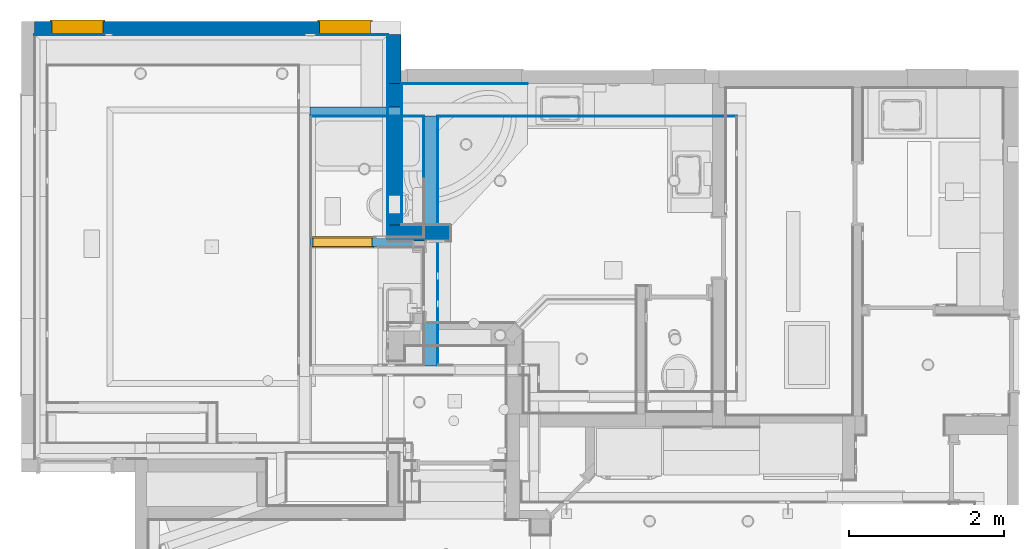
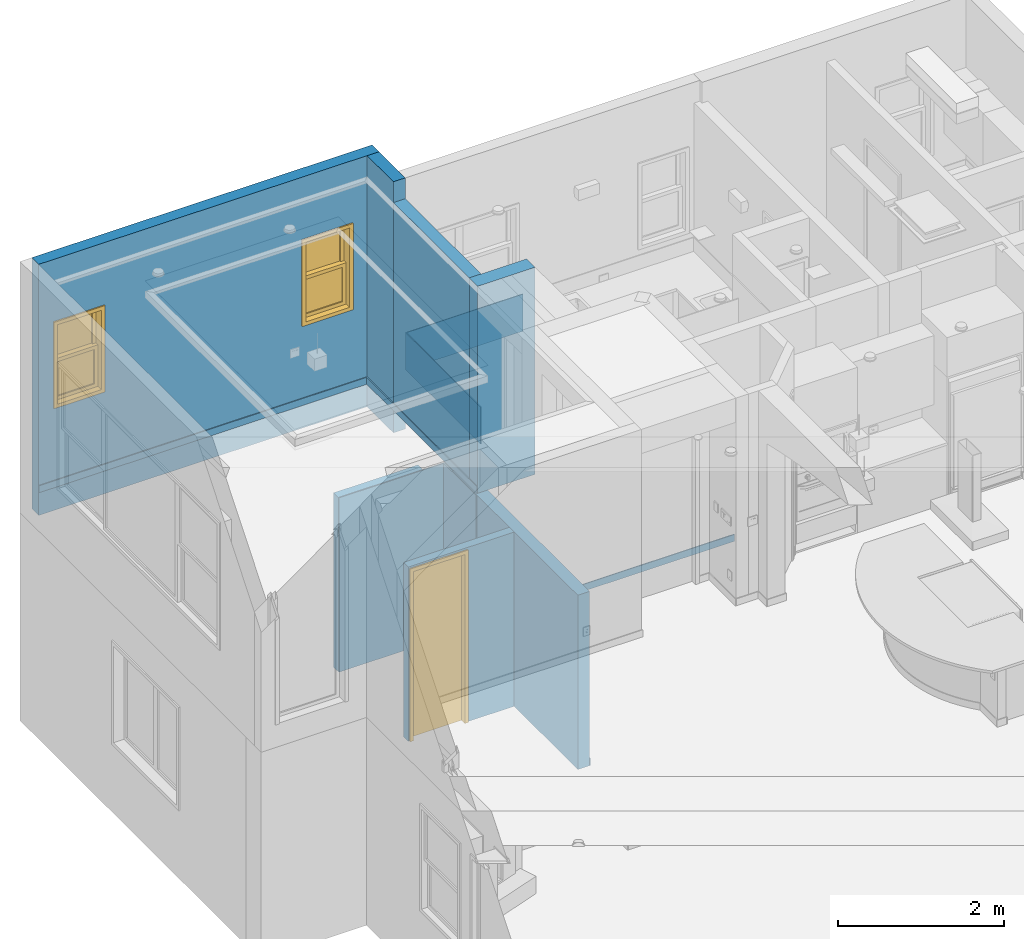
# One storey, part 10 of 60: 15 walls, 2 windows, 1 door, 3 openings.
"""IFC2X3 building model written with IfcOpenShell, lengths in feet."""

from ifc_helpers import new_model, entity, si_unit, converted_unit, direction, frame, frame_2d, origin, origin_2d_with_axis, place, context, subcontext, project, spatial, polyline, rectangle, outline, extrude, clip, bounded_halfspace, source, transform, mapped, material, material_list, layer, layer_set, layer_usage, type_object, type_shapes, element, fill, save


model = new_model("IFC2X3")

# Units and contexts
model_context = context("Model", 3, precision=0.0001, world=origin(), true_north=direction((6.123031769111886e-17, 1.0)))
plan_context = context("Plan", 3, precision=0.0001, world=origin(), true_north=direction((6.123031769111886e-17, 1.0)))
body_context = subcontext(model_context, "Body", "Model", "MODEL_VIEW")
ifc_project = project(units=[converted_unit("LENGTHUNIT", "FOOT", entity("IfcLengthMeasure", 0.3048), si_unit("LENGTHUNIT", "METRE"), dimensions=[1, 0, 0, 0, 0, 0, 0]), converted_unit("AREAUNIT", "SQUARE FOOT", entity("IfcAreaMeasure", 0.09290304), si_unit("AREAUNIT", "SQUARE_METRE"), dimensions=[2, 0, 0, 0, 0, 0, 0]), converted_unit("PLANEANGLEUNIT", "DEGREE", entity("IfcPlaneAngleMeasure", 0.017453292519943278), si_unit("PLANEANGLEUNIT", "RADIAN"), dimensions=[0, 0, 0, 0, 0, 0, 0])], contexts=[model_context, plan_context])

# Site, building, storey
site_placement = place(None, origin())
site = spatial("IfcSite", under=ifc_project, at=site_placement, Name="Default", CompositionType="ELEMENT")
building_placement = place(site_placement, origin())
building = spatial("IfcBuilding", under=site, at=building_placement, CompositionType="ELEMENT")
storey_placement = place(building_placement, origin())
storey = spatial("IfcBuildingStorey", under=building, at=storey_placement, Name="First floor", CompositionType="ELEMENT", Elevation=0.0)

# Wall, openings, windows
ifc_material_1 = material(Name="Default New Material")
ifc_layer_1 = layer(ifc_material_1, 0.5416666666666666)
ifc_layer_set_1 = layer_set([ifc_layer_1], Name="Basic Wall:Wall_6.5\"")
ifc_layer_usage_1 = layer_usage(ifc_layer_set_1, "AXIS2", "NEGATIVE", 0.2708333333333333)
wall_type_1 = type_object("IfcWallType", Name="Basic Wall:Wall_6.5\"", PredefinedType="STANDARD", material=ifc_layer_set_1)
wall_1_placement = place(storey_placement, frame((-21.312499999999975, 49.85416666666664, 9.541666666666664)))
wall_1 = element("IfcWallStandardCase", 1, at=wall_1_placement, inside=storey, type_object=wall_type_1, material=ifc_layer_usage_1, Name="Basic Wall:Wall_6.5\"", ObjectType="Basic Wall:Wall_6.5\"", context=body_context, shape_type="SweptSolid", body=[
    extrude(rectangle(XDim=15.541666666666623, YDim=0.5416666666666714, at=frame_2d((7.770833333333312, 8.881784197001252e-16), x_axis=(-1.0, 0.0))), origin(), (0.0, 0.0, 1.0), 12.125),
])
opening_1_placement = place(wall_1_placement, frame((0.749999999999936, -0.27083333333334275, 5.041666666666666)))
opening_1 = element("IfcOpeningElement", 2, at=opening_1_placement, cuts=wall_1, Name="C_Window Guilotine:2'-0\" X 3'-10\":1", ObjectType="Opening", context=body_context, shape_type="SweptSolid", body=[
    extrude(rectangle(XDim=2.166666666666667, YDim=4.000000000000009, at=frame_2d((2.0000000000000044, 1.083333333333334), x_axis=(0.0, -1.0))), frame((0.0, 0.0, 0.0), z_axis=(0.0, 1.0, 0.0), x_axis=(0.0, 0.0, 1.0)), (0.0, 0.0, 1.0), 0.5416666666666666),
])
opening_2_placement = place(wall_1_placement, frame((12.083333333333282, -0.2708333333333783, 5.041666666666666)))
opening_2 = element("IfcOpeningElement", 3, at=opening_2_placement, cuts=wall_1, Name="C_Window Guilotine:2'-0\" X 3'-10\":1", ObjectType="Opening", context=body_context, shape_type="SweptSolid", body=[
    extrude(rectangle(XDim=2.166666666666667, YDim=4.000000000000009, at=frame_2d((2.0000000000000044, 1.0833333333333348), x_axis=(0.0, -1.0))), frame((0.0, 0.0, 0.0), z_axis=(0.0, 1.0, 0.0), x_axis=(0.0, 0.0, 1.0)), (0.0, 0.0, 1.0), 0.5416666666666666),
])
ifc_material_2 = material(Name="Glass")
ifc_material_list = material_list([ifc_material_1, ifc_material_2])
window_style = type_object("IfcWindowStyle", Name="C_Window Guilotine:2'-0\" X 3'-10\"", ConstructionType="NOTDEFINED", OperationType="NOTDEFINED", ParameterTakesPrecedence=False, Sizeable=False, material=ifc_material_list)
shared_shape_1 = source(origin(), body_context, "Body", "SweptSolid", [
    extrude(outline(polyline([(-1.0, -1.0), (1.0, -1.0), (1.0, 1.0), (-1.0, 1.0), (-1.0, -1.0)]), holes=[polyline([(-0.8333333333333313, -0.8333333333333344), (-0.8333333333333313, 0.8333333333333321), (0.8333333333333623, 0.8333333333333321), (0.8333333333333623, -0.8333333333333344), (-0.8333333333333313, -0.8333333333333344)])]), frame((1.0833333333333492, 0.5416666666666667, 2.9166666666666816), z_axis=(0.0, -1.0, 0.0), x_axis=(0.0, 0.0, -1.0)), (0.0, 0.0, 1.0), 0.1666666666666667),
    extrude(rectangle(XDim=0.04166666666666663, YDim=1.6666666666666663, at=origin_2d_with_axis()), frame((1.0833333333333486, 0.2916666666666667, 1.3402777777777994), z_axis=(0.0, 0.0, 1.0), x_axis=(0.0, 1.0, 0.0)), (0.0, 0.0, 1.0), 0.04166666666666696),
    extrude(rectangle(XDim=0.04166666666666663, YDim=1.6666666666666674, at=origin_2d_with_axis()), frame((1.0833333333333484, 0.2916666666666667, 0.7847222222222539), z_axis=(0.0, 0.0, 1.0), x_axis=(0.0, 1.0, 0.0)), (0.0, 0.0, 1.0), 0.04166666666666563),
    extrude(rectangle(XDim=0.04166666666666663, YDim=1.6666666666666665, at=origin_2d_with_axis()), frame((1.0833333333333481, 0.4583333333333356, 3.1736111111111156), z_axis=(0.0, 0.0, 1.0), x_axis=(0.0, 1.0, 0.0)), (0.0, 0.0, 1.0), 0.04166666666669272),
    extrude(rectangle(XDim=0.04166666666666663, YDim=1.6666666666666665, at=origin_2d_with_axis()), frame((1.0833333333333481, 0.4583333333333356, 2.618055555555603), z_axis=(0.0, 0.0, 1.0), x_axis=(0.0, 1.0, 0.0)), (0.0, 0.0, 1.0), 0.04166666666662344),
    extrude(rectangle(XDim=0.04166666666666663, YDim=0.04166666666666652, at=origin_2d_with_axis()), frame((0.8055555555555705, 0.4583333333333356, 2.083333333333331), z_axis=(0.0, 0.0, 1.0), x_axis=(0.0, 1.0, 0.0)), (0.0, 0.0, 1.0), 1.666666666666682),
    extrude(rectangle(XDim=0.04166666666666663, YDim=0.04166666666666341, at=origin_2d_with_axis()), frame((1.3611111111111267, 0.4583333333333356, 2.0833333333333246), z_axis=(0.0, 0.0, 1.0), x_axis=(0.0, 1.0, 0.0)), (0.0, 0.0, 1.0), 1.66666666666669),
    extrude(rectangle(XDim=0.04166666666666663, YDim=1.6666666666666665, at=origin_2d_with_axis()), frame((1.0833333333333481, 0.4583333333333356, 2.0833333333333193), z_axis=(0.0, 0.0, 1.0), x_axis=(0.0, 1.0, 0.0)), (0.0, 0.0, 1.0), 1.6666666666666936),
    extrude(rectangle(XDim=0.04166666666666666, YDim=0.04166666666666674, at=origin_2d_with_axis()), frame((0.8055555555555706, 0.29166666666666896, 0.25000000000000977), z_axis=(0.0, 0.0, 1.0), x_axis=(0.0, 1.0, 0.0)), (0.0, 0.0, 1.0), 1.6666666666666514),
    extrude(rectangle(XDim=0.04166666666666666, YDim=0.04166666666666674, at=origin_2d_with_axis()), frame((1.3611111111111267, 0.29166666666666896, 0.25000000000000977), z_axis=(0.0, 0.0, 1.0), x_axis=(0.0, 1.0, 0.0)), (0.0, 0.0, 1.0), 1.6666666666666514),
    extrude(rectangle(XDim=0.04166666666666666, YDim=1.6666666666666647, at=origin_2d_with_axis()), frame((1.0833333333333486, 0.2916666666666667, 0.25000000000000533), z_axis=(0.0, 0.0, 1.0), x_axis=(0.0, 1.0, 0.0)), (0.0, 0.0, 1.0), 1.666666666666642),
    extrude(outline(polyline([(-1.0, -1.0), (1.0, -1.0), (1.0, 1.0), (-1.0, 1.0), (-1.0, -1.0)]), holes=[polyline([(0.833333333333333, -0.8333333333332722), (-0.8333333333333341, -0.8333333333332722), (-0.8333333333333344, 0.8333333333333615), (0.833333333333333, 0.8333333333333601), (0.833333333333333, -0.8333333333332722)])]), frame((1.0833333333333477, 0.375, 1.0833333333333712), z_axis=(0.0, -1.0, 0.0), x_axis=(-1.0, 0.0, 0.0)), (0.0, 0.0, 1.0), 0.16666666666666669),
    extrude(outline(polyline([(-1.166666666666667, -2.083333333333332), (1.166666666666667, -2.083333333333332), (1.1666666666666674, 2.083333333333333), (-1.1666666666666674, 2.083333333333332), (-1.166666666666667, -2.083333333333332)]), holes=[polyline([(-1.0, -1.916666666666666), (-1.0, 1.9166666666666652), (1.0, 1.9166666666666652), (1.0, -1.916666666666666), (-1.0, -1.916666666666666)])]), frame((1.0833333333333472, 0.0, 2.0), z_axis=(0.0, -1.0, 0.0), x_axis=(-1.0, 0.0, 0.0)), (0.0, 0.0, 1.0), 0.0625),
    extrude(outline(polyline([(-1.1666666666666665, -2.083333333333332), (1.1666666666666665, -2.083333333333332), (1.1666666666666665, 2.083333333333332), (-1.1666666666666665, 2.083333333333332), (-1.1666666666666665, -2.083333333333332)]), holes=[polyline([(-1.0, -1.9166666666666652), (-1.0, 1.916666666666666), (1.0, 1.916666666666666), (1.0, -1.9166666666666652), (-1.0, -1.9166666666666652)])]), frame((1.083333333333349, 0.6041666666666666, 2.0), z_axis=(0.0, -1.0, 0.0), x_axis=(-1.0, 0.0, 0.0)), (0.0, 0.0, 1.0), 0.0625),
    extrude(outline(polyline([(-2.0, -1.0833333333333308), (2.0, -1.0833333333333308), (2.0, 1.0833333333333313), (-2.0, 1.0833333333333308), (-2.0, -1.0833333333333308)]), holes=[polyline([(-1.9166666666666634, 1.0), (1.916666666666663, 1.0), (1.9166666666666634, -1.0), (-1.9166666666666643, -1.0), (-1.9166666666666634, 1.0)])]), frame((1.0833333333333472, 0.5416666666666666, 2.0), z_axis=(0.0, -1.0, 0.0), x_axis=(0.0, 0.0, -1.0)), (0.0, 0.0, 1.0), 0.5416666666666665),
])
type_shapes(window_style, [shared_shape_1])
window_1_placement = place(opening_2_placement, origin())
window_1 = element("IfcWindow", 4, at=window_1_placement, inside=storey, type_object=window_style, material=ifc_material_list, Name="C_Window Guilotine:2'-0\" X 3'-10\"", ObjectType="C_Window Guilotine:2'-0\" X 3'-10\"", OverallHeight=4.000000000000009, OverallWidth=2.166666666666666, context=body_context, shape_type="MappedRepresentation", body=[
    mapped(shared_shape_1, transform((0.0, 0.0, 0.0), scale=1.0)),
])
fill(opening_2, window_1)
window_2_placement = place(opening_1_placement, origin())
window_2 = element("IfcWindow", 5, at=window_2_placement, inside=storey, type_object=window_style, material=ifc_material_list, Name="C_Window Guilotine:2'-0\" X 3'-10\"", ObjectType="C_Window Guilotine:2'-0\" X 3'-10\"", OverallHeight=4.000000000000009, OverallWidth=2.166666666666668, context=body_context, shape_type="MappedRepresentation", body=[
    mapped(shared_shape_1, transform((0.0, 0.0, 0.0), scale=1.0)),
])
fill(opening_1, window_2)

# Walls
ifc_layer_usage_2 = layer_usage(ifc_layer_set_1, "AXIS2", "NEGATIVE", 0.2708333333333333)
wall_2_placement = place(storey_placement, frame((-6.0416666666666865, 49.583333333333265, 9.541666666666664), z_axis=(0.0, 0.0, 1.0), x_axis=(0.0, -1.0, 0.0)))
element("IfcWallStandardCase", 6, at=wall_2_placement, inside=storey, type_object=wall_type_1, material=ifc_layer_usage_2, Name="Basic Wall:Wall_6.5\"", ObjectType="Basic Wall:Wall_6.5\"", context=body_context, shape_type="SweptSolid", body=[
    extrude(rectangle(XDim=2.0836784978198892, YDim=0.5416666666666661, at=frame_2d((1.0418392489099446, 0.0), x_axis=(-1.0, 0.0))), origin(), (0.0, 0.0, 1.0), 12.125),
])
ifc_layer_usage_3 = layer_usage(ifc_layer_set_1, "AXIS2", "POSITIVE", -0.2708333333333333)
wall_3_placement = place(storey_placement, frame((-6.0416666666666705, 41.49965483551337, 10.666666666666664), z_axis=(0.0, 0.0, 1.0), x_axis=(0.0, 1.0, 0.0)))
element("IfcWallStandardCase", 7, at=wall_3_placement, inside=storey, type_object=wall_type_1, material=ifc_layer_usage_3, Name="Basic Wall:Wall_6.5\"", ObjectType="Basic Wall:Wall_6.5\"", context=body_context, shape_type="SweptSolid", body=[
    extrude(rectangle(XDim=6.000000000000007, YDim=0.5416666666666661, at=frame_2d((3.0000000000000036, 0.0), x_axis=(-1.0, 0.0))), origin(), (0.0, 0.0, 1.0), 10.0),
])
ifc_layer_usage_4 = layer_usage(ifc_layer_set_1, "AXIS2", "POSITIVE", -0.2708333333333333)
wall_4_placement = place(storey_placement, frame((-4.520833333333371, 35.54166666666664, 0.0), z_axis=(0.0, 0.0, 1.0), x_axis=(0.0, 1.0, 0.0)))
element("IfcWallStandardCase", 8, at=wall_4_placement, inside=storey, type_object=wall_type_1, material=ifc_layer_usage_4, Name="Basic Wall:Wall_6.5\"", ObjectType="Basic Wall:Wall_6.5\"", context=body_context, shape_type="SweptSolid", body=[
    extrude(rectangle(XDim=10.583333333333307, YDim=0.5416666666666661, at=frame_2d((5.291666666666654, 0.0), x_axis=(-1.0, 0.0))), origin(), (0.0, 0.0, 1.0), 8.416666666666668),
])
ifc_layer_2 = layer(ifc_material_1, 0.6666666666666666)
ifc_layer_set_2 = layer_set([ifc_layer_2], Name="Basic Wall:Wall_8\"")
ifc_layer_usage_5 = layer_usage(ifc_layer_set_2, "AXIS2", "POSITIVE", -0.33333333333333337)
wall_type_2 = type_object("IfcWallType", Name="Basic Wall:Wall_8\"", PredefinedType="STANDARD", material=ifc_layer_set_2)
wall_5_placement = place(storey_placement, frame((-3.6874999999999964, 41.16632150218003, 10.666666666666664), z_axis=(0.0, 0.0, 1.0), x_axis=(-1.0, 0.0, 0.0)))
element("IfcWallStandardCase", 9, at=wall_5_placement, inside=storey, type_object=wall_type_2, material=ifc_layer_usage_5, Name="Basic Wall:Wall_8\"", ObjectType="Basic Wall:Wall_8\"", context=body_context, shape_type="SweptSolid", body=[
    extrude(rectangle(XDim=2.625000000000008, YDim=0.6666666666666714, at=frame_2d((1.312500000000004, 0.0), x_axis=(-1.0, 0.0))), origin(), (0.0, 0.0, 1.0), 10.0),
])

# Wall, opening, door
ifc_layer_3 = layer(ifc_material_1, 0.375)
ifc_layer_set_3 = layer_set([ifc_layer_3], Name="Basic Wall:Wall_4.5\"")
ifc_layer_usage_6 = layer_usage(ifc_layer_set_3, "AXIS2", "POSITIVE", -0.1875)
wall_type_3 = type_object("IfcWallType", Name="Basic Wall:Wall_4.5\"", PredefinedType="STANDARD", material=ifc_layer_set_3)
wall_6_placement = place(storey_placement, frame((-4.7916666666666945, 40.770833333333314, 0.0), z_axis=(0.0, 0.0, 1.0), x_axis=(-1.0, 0.0, 0.0)))
wall_6 = element("IfcWallStandardCase", 10, at=wall_6_placement, inside=storey, type_object=wall_type_3, material=ifc_layer_usage_6, Name="Basic Wall:Wall_4.5\"", ObjectType="Basic Wall:Wall_4.5\"", context=body_context, shape_type="SweptSolid", body=[
    extrude(rectangle(XDim=4.833333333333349, YDim=0.375, at=frame_2d((2.4166666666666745, 0.0), x_axis=(-1.0, 0.0))), origin(), (0.0, 0.0, 1.0), 8.416666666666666),
])
opening_3_placement = place(wall_6_placement, frame((4.708333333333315, 0.18749999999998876, 0.0)))
opening_3 = element("IfcOpeningElement", 11, at=opening_3_placement, cuts=wall_6, Name="C_Single Door:2'-4\" X 8'-2\":1", ObjectType="Opening", context=body_context, shape_type="SweptSolid", body=[
    extrude(rectangle(XDim=2.4999999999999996, YDim=8.25, at=frame_2d((4.125, 1.2500000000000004), x_axis=(0.0, 1.0))), frame((0.0, 0.0, 0.0), z_axis=(0.0, -1.0, 0.0), x_axis=(0.0, 0.0, 1.0)), (0.0, 0.0, 1.0), 0.375),
])
door_style = type_object("IfcDoorStyle", Name="C_Single Door:2'-4\" X 8'-2\"", ConstructionType="NOTDEFINED", OperationType="SINGLE_SWING_RIGHT", ParameterTakesPrecedence=False, Sizeable=False, material=ifc_material_1)
shared_shape_2 = source(origin(), body_context, "Body", "SweptSolid", [
    extrude(rectangle(XDim=2.333333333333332, YDim=0.16666666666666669, at=origin_2d_with_axis()), frame((1.2500000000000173, 0.08333333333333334, 0.0)), (0.0, 0.0, 1.0), 8.166666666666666),
    extrude(outline(polyline([(-4.041666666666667, 1.1666666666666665), (4.125000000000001, 1.1666666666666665), (4.125000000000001, 1.3333333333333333), (-4.208333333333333, 1.3333333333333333), (-4.208333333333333, -1.3333333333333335), (4.124999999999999, -1.3333333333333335), (4.124999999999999, -1.1666666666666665), (-4.041666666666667, -1.1666666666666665), (-4.041666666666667, 1.1666666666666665)])), frame((1.2500000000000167, 0.0, 4.124999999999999), z_axis=(0.0, -1.0, 0.0), x_axis=(0.0, 0.0, -1.0)), (0.0, 0.0, 1.0), 0.0625),
    extrude(outline(polyline([(-4.041666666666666, 1.1666666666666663), (4.125, 1.1666666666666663), (4.125, 1.3333333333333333), (-4.208333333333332, 1.3333333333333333), (-4.208333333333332, -1.3333333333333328), (4.125, -1.3333333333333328), (4.125, -1.1666666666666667), (-4.041666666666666, -1.1666666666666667), (-4.041666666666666, 1.1666666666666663)])), frame((1.2500000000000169, 0.4375, 4.125), z_axis=(0.0, -1.0, 0.0), x_axis=(0.0, 0.0, -1.0)), (0.0, 0.0, 1.0), 0.0625),
    extrude(outline(polyline([(1.1666666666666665, -4.104166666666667), (1.249999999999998, -4.104166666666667), (1.2499999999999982, 4.145833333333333), (-1.2499999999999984, 4.145833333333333), (-1.2499999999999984, -4.104166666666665), (-1.1666666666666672, -4.104166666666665), (-1.1666666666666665, 4.062500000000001), (1.1666666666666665, 4.062500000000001), (1.1666666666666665, -4.104166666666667)])), frame((1.2500000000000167, 0.375, 4.104166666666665), z_axis=(0.0, -1.0, 0.0), x_axis=(1.0, 0.0, 0.0)), (0.0, 0.0, 1.0), 0.375),
])
type_shapes(door_style, [shared_shape_2])
door_placement = place(opening_3_placement, frame((-2.5000000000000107, -0.3749999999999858, 0.0)))
door = element("IfcDoor", 12, at=door_placement, inside=storey, type_object=door_style, material=ifc_material_1, Name="C_Single Door:2'-4\" X 8'-2\"", ObjectType="C_Single Door:2'-4\" X 8'-2\"", OverallHeight=8.25, OverallWidth=2.5000000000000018, context=body_context, shape_type="MappedRepresentation", body=[
    mapped(shared_shape_2, transform((0.0, 0.0, 0.0), scale=1.0)),
])
fill(opening_3, door)

# Walls
ifc_layer_usage_7 = layer_usage(ifc_layer_set_3, "AXIS2", "NEGATIVE", 0.1875)
wall_7_placement = place(storey_placement, frame((-5.770833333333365, 46.3125, 0.0), z_axis=(0.0, 0.0, 1.0), x_axis=(-1.0, 0.0, 0.0)))
element("IfcWallStandardCase", 13, at=wall_7_placement, inside=storey, type_object=wall_type_3, material=ifc_layer_usage_7, Name="Basic Wall:Wall_4.5\"", ObjectType="Basic Wall:Wall_4.5\"", context=body_context, shape_type="SweptSolid", body=[
    extrude(rectangle(XDim=3.8541666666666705, YDim=0.375, at=frame_2d((1.9270833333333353, 0.0), x_axis=(-1.0, 0.0))), origin(), (0.0, 0.0, 1.0), 8.416666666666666),
])
ifc_layer_4 = layer(ifc_material_1, 0.041666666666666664)
ifc_layer_set_4 = layer_set([ifc_layer_4], Name="Basic Wall:Wall Border_T1")
ifc_layer_usage_8 = layer_usage(ifc_layer_set_4, "AXIS2", "POSITIVE", -0.020833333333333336)
wall_type_4 = type_object("IfcWallType", Name="Basic Wall:Wall Border_T1", PredefinedType="STANDARD", material=ifc_layer_set_4)
wall_8_placement = place(storey_placement, frame((-4.208333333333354, 46.104166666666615, 0.0)))
element("IfcWallStandardCase", 14, at=wall_8_placement, inside=storey, type_object=wall_type_4, material=ifc_layer_usage_8, Name="Basic Wall:Wall Border_T1", ObjectType="Basic Wall:Wall Border_T1", context=body_context, shape_type="Clipping", body=[
    clip(extrude(rectangle(XDim=12.66666666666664, YDim=0.041666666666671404, at=frame_2d((6.33333333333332, -6.938893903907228e-17), x_axis=(-1.0, 0.0))), origin(), (0.0, 0.0, 1.0), 0.3333333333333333), bounded_halfspace(frame((0.0, -0.020833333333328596, 0.0), z_axis=(1.0, 0.0, 0.0), x_axis=(0.0, 1.0, 0.0)), True, frame((0.0, -0.020833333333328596, 0.0), z_axis=(1.0, 0.0, 0.0), x_axis=(0.0, 1.0, 0.0)), polyline([(0.0, 0.0), (0.0416666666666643, 0.0), (0.0416666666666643, 0.3333333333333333), (0.0, 0.3333333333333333), (0.0, 0.0)]))),
])
ifc_layer_usage_9 = layer_usage(ifc_layer_set_4, "AXIS2", "POSITIVE", -0.020833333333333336)
wall_9_placement = place(storey_placement, frame((-4.229166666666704, 35.54166666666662, 0.0), z_axis=(0.0, 0.0, 1.0), x_axis=(0.0, 1.0, 0.0)))
element("IfcWallStandardCase", 15, at=wall_9_placement, inside=storey, type_object=wall_type_4, material=ifc_layer_usage_9, Name="Basic Wall:Wall Border_T1", ObjectType="Basic Wall:Wall Border_T1", context=body_context, shape_type="SweptSolid", body=[
    extrude(rectangle(XDim=10.583333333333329, YDim=0.041666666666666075, at=frame_2d((5.291666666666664, 0.0), x_axis=(-1.0, 0.0))), origin(), (0.0, 0.0, 1.0), 0.3333333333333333),
])
ifc_layer_usage_10 = layer_usage(ifc_layer_set_4, "AXIS2", "NEGATIVE", 0.020833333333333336)
wall_10_placement = place(storey_placement, frame((-4.812500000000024, 43.54166666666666, 0.0), z_axis=(0.0, 0.0, 1.0), x_axis=(0.0, 1.0, 0.0)))
element("IfcWallStandardCase", 16, at=wall_10_placement, inside=storey, type_object=wall_type_4, material=ifc_layer_usage_10, Name="Basic Wall:Wall Border_T1", ObjectType="Basic Wall:Wall Border_T1", context=body_context, shape_type="SweptSolid", body=[
    extrude(rectangle(XDim=2.5833333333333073, YDim=0.041666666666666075, at=frame_2d((1.2916666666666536, 1.0408340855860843e-17), x_axis=(-1.0, 0.0))), origin(), (0.0, 0.0, 1.0), 8.416666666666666),
])
ifc_layer_usage_11 = layer_usage(ifc_layer_set_4, "AXIS2", "NEGATIVE", 0.020833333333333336)
wall_11_placement = place(storey_placement, frame((-4.833333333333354, 46.104166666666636, 0.0), z_axis=(0.0, 0.0, 1.0), x_axis=(-1.0, 0.0, 0.0)))
element("IfcWallStandardCase", 17, at=wall_11_placement, inside=storey, type_object=wall_type_4, material=ifc_layer_usage_11, Name="Basic Wall:Wall Border_T1", ObjectType="Basic Wall:Wall Border_T1", context=body_context, shape_type="SweptSolid", body=[
    extrude(rectangle(XDim=4.791666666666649, YDim=0.041666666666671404, at=frame_2d((2.3958333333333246, -2.6680047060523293e-15), x_axis=(-1.0, 0.0))), origin(), (0.0, 0.0, 1.0), 8.416666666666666),
])
ifc_layer_usage_12 = layer_usage(ifc_layer_set_4, "AXIS2", "NEGATIVE", 0.020833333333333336)
wall_12_placement = place(storey_placement, frame((-6.333333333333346, 40.83298816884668, 10.666666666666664), z_axis=(0.0, 0.0, 1.0), x_axis=(0.0, 1.0, 0.0)))
element("IfcWallStandardCase", 18, at=wall_12_placement, inside=storey, type_object=wall_type_4, material=ifc_layer_usage_12, Name="Basic Wall:Wall Border_T1", ObjectType="Basic Wall:Wall Border_T1", context=body_context, shape_type="SweptSolid", body=[
    extrude(rectangle(XDim=8.750345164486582, YDim=0.041666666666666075, at=frame_2d((4.375172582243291, -9.540979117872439e-17), x_axis=(-1.0, 0.0))), origin(), (0.0, 0.0, 1.0), 0.3333333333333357),
])
ifc_layer_usage_13 = layer_usage(ifc_layer_set_4, "AXIS2", "NEGATIVE", 0.020833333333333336)
wall_13_placement = place(storey_placement, frame((-6.35416666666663, 49.562499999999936, 10.666666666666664), z_axis=(0.0, 0.0, 1.0), x_axis=(-1.0, 0.0, 0.0)))
element("IfcWallStandardCase", 19, at=wall_13_placement, inside=storey, type_object=wall_type_4, material=ifc_layer_usage_13, Name="Basic Wall:Wall Border_T1", ObjectType="Basic Wall:Wall Border_T1", context=body_context, shape_type="SweptSolid", body=[
    extrude(rectangle(XDim=14.958333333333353, YDim=0.041666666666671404, at=frame_2d((7.479166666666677, 4.77048955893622e-16), x_axis=(-1.0, 0.0))), origin(), (0.0, 0.0, 1.0), 0.3333333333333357),
])
ifc_layer_usage_14 = layer_usage(ifc_layer_set_4, "AXIS2", "NEGATIVE", 0.020833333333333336)
wall_14_placement = place(storey_placement, frame((-5.749999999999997, 41.54132150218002, 12.416666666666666), z_axis=(0.0, 0.0, 1.0), x_axis=(0.0, 1.0, 0.0)))
element("IfcWallStandardCase", 20, at=wall_14_placement, inside=storey, type_object=wall_type_4, material=ifc_layer_usage_14, Name="Basic Wall:Wall Border_T1", ObjectType="Basic Wall:Wall Border_T1", context=body_context, shape_type="SweptSolid", body=[
    extrude(rectangle(XDim=5.958333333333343, YDim=0.041666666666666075, at=frame_2d((2.9791666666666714, 1.1796119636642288e-16), x_axis=(-1.0, 0.0))), origin(), (0.0, 0.0, 1.0), 1.7916666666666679),
])
ifc_layer_usage_15 = layer_usage(ifc_layer_set_4, "AXIS2", "NEGATIVE", 0.020833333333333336)
wall_15_placement = place(storey_placement, frame((-0.41666666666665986, 47.47882150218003, 12.416666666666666), z_axis=(0.0, 0.0, 1.0), x_axis=(-1.0, 0.0, 0.0)))
element("IfcWallStandardCase", 21, at=wall_15_placement, inside=storey, type_object=wall_type_4, material=ifc_layer_usage_15, Name="Basic Wall:Wall Border_T1", ObjectType="Basic Wall:Wall Border_T1", context=body_context, shape_type="SweptSolid", body=[
    extrude(rectangle(XDim=5.312499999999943, YDim=0.041666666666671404, at=frame_2d((2.6562499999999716, 0.0), x_axis=(-1.0, 0.0))), origin(), (0.0, 0.0, 1.0), 1.7916666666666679),
])

save(model, "model.ifc")
